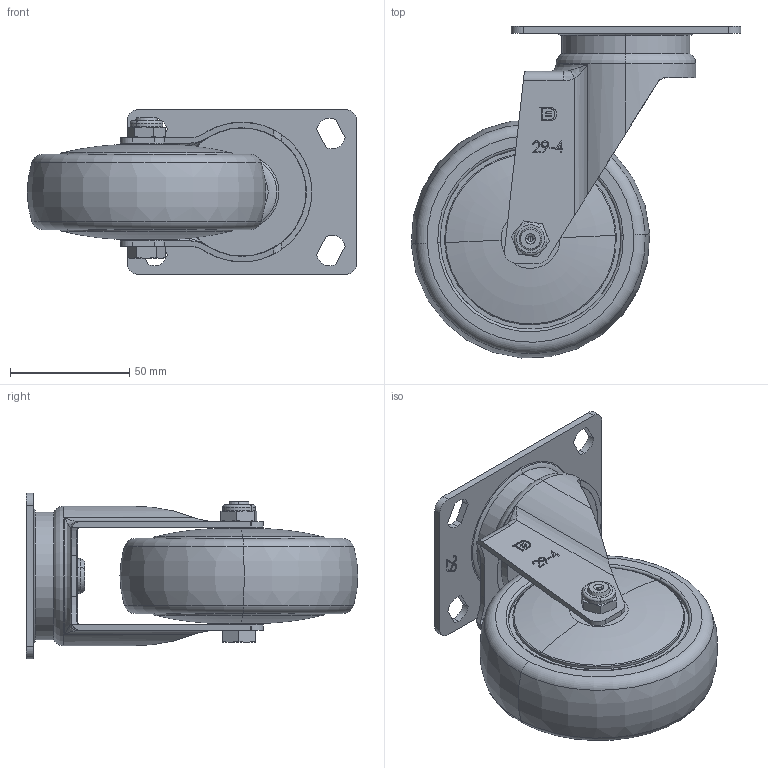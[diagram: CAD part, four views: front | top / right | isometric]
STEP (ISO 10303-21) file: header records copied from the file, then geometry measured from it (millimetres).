
FILE_DESCRIPTION (( 'STEP AP203' ), '1' );
FILE_NAME ('4112904002045-7.STEP', '2025-02-04T08:53:46', ( '' ), ( '' ), 'SwSTEP 2.0', 'SolidWorks 2019', '' );
FILE_SCHEMA (( 'CONFIG_CONTROL_DESIGN' ));
Length unit declared in the file: millimetre
Products named in the file (7): 12129120300002 29系列用斜孔底板-電鍍 3''''.4''''.5''''共用(3t); 4輪; 242020954001 4''''.5''''儀器.高級活動用車心 20240124A8; 245020900003 尼龍螺帽  3 8''''(對邊14x7L); 29系列4吋活動腳-展示用; 4112904002045-7; 242011419007 高級架用底板鉚釘 14.7x19L(New)
Assembly tree (6 placements, depth 2):
  4112904002045-7
    29系列4吋活動腳-展示用
    242011419007 高級架用底板鉚釘 14.7x19L(New)
    4輪
    245020900003 尼龍螺帽  3 8''''(對邊14x7L)
    242020954001 4''''.5''''儀器.高級活動用車心 20240124A8
    12129120300002 29系列用斜孔底板-電鍍 3''''.4''''.5''''共用(3t)
Bounding box: 138.05 x 139.05 x 69.3 mm (x, y, z)
Volume: 305243.3 mm3; surface area: 87237.4 mm2
Topology: 6 solids, 8 shells, 382 faces, 920 edges, 583 vertices
Faces by surface type: plane 146, cylinder 96, torus 64, bspline 38, cone 36, sphere 2
Entity records: 13987 total; most frequent: CARTESIAN_POINT 4366, DIRECTION 1868, ORIENTED_EDGE 1832, EDGE_CURVE 916, AXIS2_PLACEMENT_3D 721, VERTEX_POINT 583, EDGE_LOOP 441, VECTOR 426
